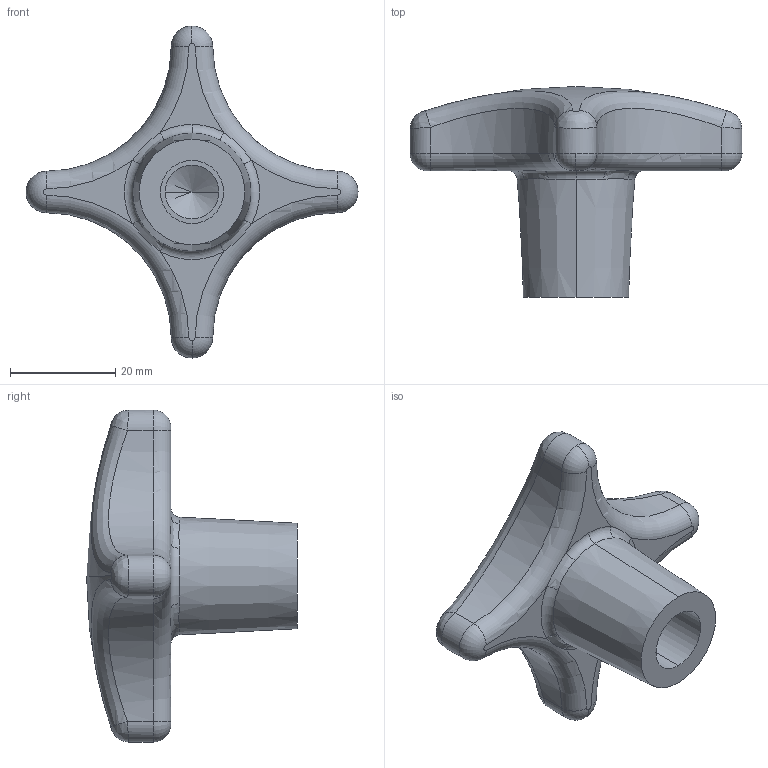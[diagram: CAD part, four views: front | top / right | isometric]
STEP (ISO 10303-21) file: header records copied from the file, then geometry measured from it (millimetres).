
FILE_DESCRIPTION (( 'STEP AP203' ), '1' );
FILE_NAME ('70040.W0463.step', '2019-01-26T19:31:52', ( '' ), ( '' ), 'SwSTEP 2.0', 'SolidWorks 2017', '' );
FILE_SCHEMA (( 'CONFIG_CONTROL_DESIGN' ));
Length unit declared in the file: millimetre
Products named in the file (1): 70040.W0463
Bounding box: 63 x 40 x 63 mm (x, y, z)
Volume: 24300.3 mm3; surface area: 7463.8 mm2
Topology: 1 solids, 1 shells, 52 faces, 120 edges, 70 vertices
Faces by surface type: torus 15, cylinder 13, bspline 12, plane 6, cone 4, sphere 2
Entity records: 2898 total; most frequent: CARTESIAN_POINT 1696, DIRECTION 247, ORIENTED_EDGE 236, EDGE_CURVE 118, AXIS2_PLACEMENT_3D 115, CIRCLE 74, VERTEX_POINT 70, EDGE_LOOP 54
